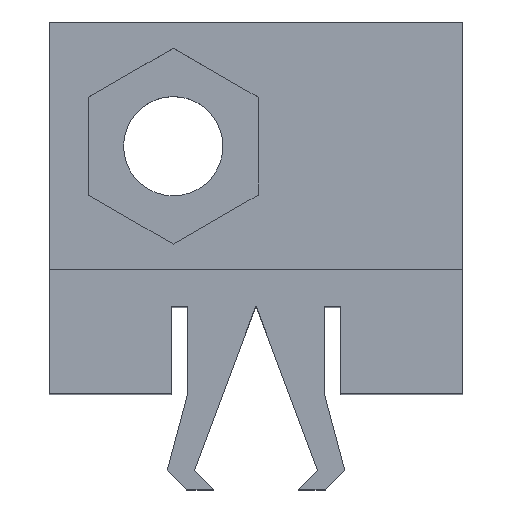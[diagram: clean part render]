
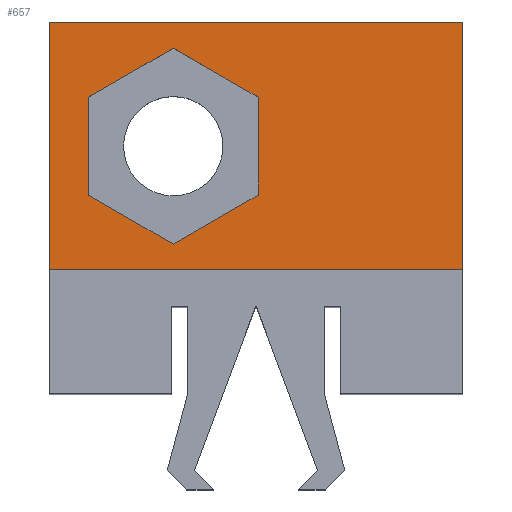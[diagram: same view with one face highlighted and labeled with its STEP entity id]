
A CAD part, top view. The second image highlights one B-rep face of the part: STEP entity #657.
In plain terms, the highlighted planar face has unit normal (0, 0, 1).
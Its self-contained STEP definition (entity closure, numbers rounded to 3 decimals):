
#17=FACE_BOUND('',#66,.T.);
#30=FACE_OUTER_BOUND('',#65,.T.);
#65=EDGE_LOOP('',(#468,#469,#470,#471));
#66=EDGE_LOOP('',(#472,#473,#474,#475,#476,#477));
#92=LINE('',#889,#183);
#96=LINE('',#897,#187);
#99=LINE('',#903,#190);
#102=LINE('',#909,#193);
#105=LINE('',#915,#196);
#108=LINE('',#920,#199);
#111=LINE('',#932,#202);
#115=LINE('',#940,#206);
#116=LINE('',#942,#207);
#117=LINE('',#943,#208);
#183=VECTOR('',#724,10.);
#187=VECTOR('',#730,10.);
#190=VECTOR('',#735,10.);
#193=VECTOR('',#740,10.);
#196=VECTOR('',#745,10.);
#199=VECTOR('',#750,10.);
#202=VECTOR('',#763,10.);
#206=VECTOR('',#769,10.);
#207=VECTOR('',#770,10.);
#208=VECTOR('',#771,10.);
#274=VERTEX_POINT('',#887);
#275=VERTEX_POINT('',#888);
#278=VERTEX_POINT('',#896);
#280=VERTEX_POINT('',#902);
#282=VERTEX_POINT('',#908);
#284=VERTEX_POINT('',#914);
#288=VERTEX_POINT('',#930);
#289=VERTEX_POINT('',#931);
#292=VERTEX_POINT('',#939);
#293=VERTEX_POINT('',#941);
#336=EDGE_CURVE('',#274,#275,#92,.T.);
#340=EDGE_CURVE('',#278,#274,#96,.T.);
#343=EDGE_CURVE('',#280,#278,#99,.T.);
#346=EDGE_CURVE('',#282,#280,#102,.T.);
#349=EDGE_CURVE('',#284,#282,#105,.T.);
#352=EDGE_CURVE('',#275,#284,#108,.T.);
#357=EDGE_CURVE('',#288,#289,#111,.T.);
#361=EDGE_CURVE('',#288,#292,#115,.T.);
#362=EDGE_CURVE('',#293,#292,#116,.T.);
#363=EDGE_CURVE('',#289,#293,#117,.T.);
#468=ORIENTED_EDGE('',*,*,#361,.T.);
#469=ORIENTED_EDGE('',*,*,#362,.F.);
#470=ORIENTED_EDGE('',*,*,#363,.F.);
#471=ORIENTED_EDGE('',*,*,#357,.F.);
#472=ORIENTED_EDGE('',*,*,#336,.T.);
#473=ORIENTED_EDGE('',*,*,#352,.T.);
#474=ORIENTED_EDGE('',*,*,#349,.T.);
#475=ORIENTED_EDGE('',*,*,#346,.T.);
#476=ORIENTED_EDGE('',*,*,#343,.T.);
#477=ORIENTED_EDGE('',*,*,#340,.T.);
#623=PLANE('',#695);
#657=ADVANCED_FACE('',(#30,#17),#623,.F.);
#695=AXIS2_PLACEMENT_3D('',#938,#767,#768);
#724=DIRECTION('',(0.866,-0.5,0.));
#730=DIRECTION('',(0.866,0.5,0.));
#735=DIRECTION('',(0.,1.,0.));
#740=DIRECTION('',(-0.866,0.5,0.));
#745=DIRECTION('',(-0.866,-0.5,0.));
#750=DIRECTION('',(0.,-1.,0.));
#763=DIRECTION('',(1.,0.,0.));
#767=DIRECTION('center_axis',(0.,0.,-1.));
#768=DIRECTION('ref_axis',(0.,1.,0.));
#769=DIRECTION('',(0.,-1.,0.));
#770=DIRECTION('',(-1.,0.,0.));
#771=DIRECTION('',(0.,-1.,0.));
#887=CARTESIAN_POINT('',(-2.,8.367,2.5));
#888=CARTESIAN_POINT('',(0.05,7.184,2.5));
#889=CARTESIAN_POINT('',(-0.737,7.638,2.5));
#896=CARTESIAN_POINT('',(-4.05,7.184,2.5));
#897=CARTESIAN_POINT('',(-2.788,7.912,2.5));
#902=CARTESIAN_POINT('',(-4.05,4.816,2.5));
#903=CARTESIAN_POINT('',(-4.05,5.408,2.5));
#908=CARTESIAN_POINT('',(-2.,3.633,2.5));
#909=CARTESIAN_POINT('',(-1.762,3.496,2.5));
#914=CARTESIAN_POINT('',(0.05,4.816,2.5));
#915=CARTESIAN_POINT('',(0.287,4.954,2.5));
#920=CARTESIAN_POINT('',(0.05,6.592,2.5));
#930=CARTESIAN_POINT('',(-5.,9.,2.5));
#931=CARTESIAN_POINT('',(5.,9.,2.5));
#932=CARTESIAN_POINT('',(0.,9.,2.5));
#938=CARTESIAN_POINT('Origin',(0.,6.,2.5));
#939=CARTESIAN_POINT('',(-5.,3.,2.5));
#940=CARTESIAN_POINT('',(-5.,6.,2.5));
#941=CARTESIAN_POINT('',(5.,3.,2.5));
#942=CARTESIAN_POINT('',(1.125,3.,2.5));
#943=CARTESIAN_POINT('',(5.,6.,2.5));
